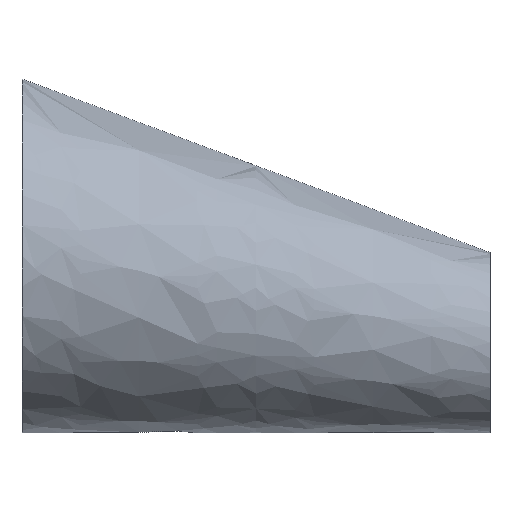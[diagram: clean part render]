
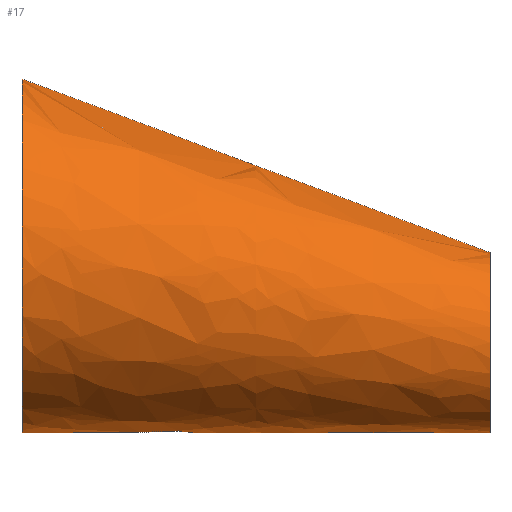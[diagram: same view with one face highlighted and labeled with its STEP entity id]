
A CAD part, top view. The second image highlights one B-rep face of the part: STEP entity #17.
In plain terms, the highlighted free-form (B-spline) face has degree [14, 1] with [28, 2] control points.
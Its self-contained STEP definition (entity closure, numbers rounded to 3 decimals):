
#17 = ADVANCED_FACE('',(#18),#31,.T.);
#18 = FACE_BOUND('',#19,.T.);
#19 = EDGE_LOOP('',(#20,#106,#128,#155));
#20 = ORIENTED_EDGE('',*,*,#21,.T.);
#21 = EDGE_CURVE('',#22,#22,#24,.T.);
#22 = VERTEX_POINT('',#23);
#23 = CARTESIAN_POINT('',(0.,52.,0.));
#24 = SURFACE_CURVE('',#25,(#30,#94),.PCURVE_S1.);
#25 = CIRCLE('',#26,52.);
#26 = AXIS2_PLACEMENT_3D('',#27,#28,#29);
#27 = CARTESIAN_POINT('',(0.,0.,0.));
#28 = DIRECTION('',(1.,0.,0.));
#29 = DIRECTION('',(0.,1.,0.));
#30 = PCURVE('',#31,#88);
#31 = B_SPLINE_SURFACE_WITH_KNOTS('',14,1,(
    (#32,#33)
    ,(#34,#35)
    ,(#36,#37)
    ,(#38,#39)
    ,(#40,#41)
    ,(#42,#43)
    ,(#44,#45)
    ,(#46,#47)
    ,(#48,#49)
    ,(#50,#51)
    ,(#52,#53)
    ,(#54,#55)
    ,(#56,#57)
    ,(#58,#59)
    ,(#60,#61)
    ,(#62,#63)
    ,(#64,#65)
    ,(#66,#67)
    ,(#68,#69)
    ,(#70,#71)
    ,(#72,#73)
    ,(#74,#75)
    ,(#76,#77)
    ,(#78,#79)
    ,(#80,#81)
    ,(#82,#83)
    ,(#84,#85)
    ,(#86,#87
    )),.UNSPECIFIED.,.T.,.F.,.F.,(15,13,15),(2,2),(0.,3.142,
    6.283),(0.,1.),.UNSPECIFIED.);
#32 = CARTESIAN_POINT('',(0.,52.,0.));
#33 = CARTESIAN_POINT('',(137.5,1.,0.));
#34 = CARTESIAN_POINT('',(0.,52.,11.669));
#35 = CARTESIAN_POINT('',(137.5,1.,5.947));
#36 = CARTESIAN_POINT('',(0.,49.18,23.338));
#37 = CARTESIAN_POINT('',(137.5,-0.437,
    11.893));
#38 = CARTESIAN_POINT('',(0.,43.54,34.268));
#39 = CARTESIAN_POINT('',(137.5,-3.311,
    17.464));
#40 = CARTESIAN_POINT('',(0.,35.292,43.722));
#41 = CARTESIAN_POINT('',(137.5,-7.515,22.281));
#42 = CARTESIAN_POINT('',(0.,24.855,51.028));
#43 = CARTESIAN_POINT('',(137.5,-12.833,26.004));
#44 = CARTESIAN_POINT('',(0.,12.841,55.645));
#45 = CARTESIAN_POINT('',(137.5,-18.956,
    28.358));
#46 = CARTESIAN_POINT('',(0.,0.,57.225));
#47 = CARTESIAN_POINT('',(137.5,-25.5,
    29.163));
#48 = CARTESIAN_POINT('',(0.,-12.841,55.645));
#49 = CARTESIAN_POINT('',(137.5,-32.044,28.358));
#50 = CARTESIAN_POINT('',(0.,-24.855,51.028));
#51 = CARTESIAN_POINT('',(137.5,-38.167,26.004));
#52 = CARTESIAN_POINT('',(0.,-35.292,43.722));
#53 = CARTESIAN_POINT('',(137.5,-43.485,22.281));
#54 = CARTESIAN_POINT('',(0.,-43.54,34.268));
#55 = CARTESIAN_POINT('',(137.5,-47.689,17.464));
#56 = CARTESIAN_POINT('',(0.,-49.18,23.338));
#57 = CARTESIAN_POINT('',(137.5,-50.563,11.893));
#58 = CARTESIAN_POINT('',(0.,-52.,11.669));
#59 = CARTESIAN_POINT('',(137.5,-52.,5.947));
#60 = CARTESIAN_POINT('',(0.,-52.,-11.669));
#61 = CARTESIAN_POINT('',(137.5,-52.,-5.947));
#62 = CARTESIAN_POINT('',(0.,-49.18,-23.338));
#63 = CARTESIAN_POINT('',(137.5,-50.563,-11.893));
#64 = CARTESIAN_POINT('',(0.,-43.54,-34.268));
#65 = CARTESIAN_POINT('',(137.5,-47.689,-17.464));
#66 = CARTESIAN_POINT('',(0.,-35.292,-43.722));
#67 = CARTESIAN_POINT('',(137.5,-43.485,-22.281));
#68 = CARTESIAN_POINT('',(0.,-24.855,-51.028));
#69 = CARTESIAN_POINT('',(137.5,-38.167,-26.004));
#70 = CARTESIAN_POINT('',(0.,-12.841,-55.645));
#71 = CARTESIAN_POINT('',(137.5,-32.044,-28.358));
#72 = CARTESIAN_POINT('',(0.,0.,-57.225));
#73 = CARTESIAN_POINT('',(137.5,-25.5,-29.163));
#74 = CARTESIAN_POINT('',(0.,12.841,-55.645));
#75 = CARTESIAN_POINT('',(137.5,-18.956,-28.358));
#76 = CARTESIAN_POINT('',(0.,24.855,-51.028));
#77 = CARTESIAN_POINT('',(137.5,-12.833,-26.004));
#78 = CARTESIAN_POINT('',(0.,35.292,-43.722));
#79 = CARTESIAN_POINT('',(137.5,-7.515,
    -22.281));
#80 = CARTESIAN_POINT('',(0.,43.54,-34.268));
#81 = CARTESIAN_POINT('',(137.5,-3.311,
    -17.464));
#82 = CARTESIAN_POINT('',(0.,49.18,-23.338));
#83 = CARTESIAN_POINT('',(137.5,-0.437,
    -11.893));
#84 = CARTESIAN_POINT('',(0.,52.,-11.669));
#85 = CARTESIAN_POINT('',(137.5,1.,-5.947
    ));
#86 = CARTESIAN_POINT('',(0.,52.,0.));
#87 = CARTESIAN_POINT('',(137.5,1.,0.));
#88 = DEFINITIONAL_REPRESENTATION('',(#89),#93);
#89 = LINE('',#90,#91);
#90 = CARTESIAN_POINT('',(0.,0.));
#91 = VECTOR('',#92,1.);
#92 = DIRECTION('',(1.,0.));
#93 = ( GEOMETRIC_REPRESENTATION_CONTEXT(2) 
PARAMETRIC_REPRESENTATION_CONTEXT() REPRESENTATION_CONTEXT('2D SPACE',''
  ) );
#94 = PCURVE('',#95,#100);
#95 = PLANE('',#96);
#96 = AXIS2_PLACEMENT_3D('',#97,#98,#99);
#97 = CARTESIAN_POINT('',(0.,0.,0.));
#98 = DIRECTION('',(1.,0.,0.));
#99 = DIRECTION('',(0.,1.,0.));
#100 = DEFINITIONAL_REPRESENTATION('',(#101),#105);
#101 = CIRCLE('',#102,52.);
#102 = AXIS2_PLACEMENT_2D('',#103,#104);
#103 = CARTESIAN_POINT('',(0.,0.));
#104 = DIRECTION('',(1.,0.));
#105 = ( GEOMETRIC_REPRESENTATION_CONTEXT(2) 
PARAMETRIC_REPRESENTATION_CONTEXT() REPRESENTATION_CONTEXT('2D SPACE',''
  ) );
#106 = ORIENTED_EDGE('',*,*,#107,.T.);
#107 = EDGE_CURVE('',#22,#108,#110,.T.);
#108 = VERTEX_POINT('',#109);
#109 = CARTESIAN_POINT('',(137.5,1.,0.));
#110 = SEAM_CURVE('',#111,(#114,#121),.PCURVE_S1.);
#111 = B_SPLINE_CURVE_WITH_KNOTS('',1,(#112,#113),.UNSPECIFIED.,.F.,.F.,
  (2,2),(0.,1.),.PIECEWISE_BEZIER_KNOTS.);
#112 = CARTESIAN_POINT('',(0.,52.,0.));
#113 = CARTESIAN_POINT('',(137.5,1.,0.));
#114 = PCURVE('',#31,#115);
#115 = DEFINITIONAL_REPRESENTATION('',(#116),#120);
#116 = LINE('',#117,#118);
#117 = CARTESIAN_POINT('',(6.283,0.));
#118 = VECTOR('',#119,1.);
#119 = DIRECTION('',(0.,1.));
#120 = ( GEOMETRIC_REPRESENTATION_CONTEXT(2) 
PARAMETRIC_REPRESENTATION_CONTEXT() REPRESENTATION_CONTEXT('2D SPACE',''
  ) );
#121 = PCURVE('',#31,#122);
#122 = DEFINITIONAL_REPRESENTATION('',(#123),#127);
#123 = LINE('',#124,#125);
#124 = CARTESIAN_POINT('',(0.,0.));
#125 = VECTOR('',#126,1.);
#126 = DIRECTION('',(0.,1.));
#127 = ( GEOMETRIC_REPRESENTATION_CONTEXT(2) 
PARAMETRIC_REPRESENTATION_CONTEXT() REPRESENTATION_CONTEXT('2D SPACE',''
  ) );
#128 = ORIENTED_EDGE('',*,*,#129,.F.);
#129 = EDGE_CURVE('',#108,#108,#130,.T.);
#130 = SURFACE_CURVE('',#131,(#136,#143),.PCURVE_S1.);
#131 = CIRCLE('',#132,26.5);
#132 = AXIS2_PLACEMENT_3D('',#133,#134,#135);
#133 = CARTESIAN_POINT('',(137.5,-25.5,0.));
#134 = DIRECTION('',(1.,0.,0.));
#135 = DIRECTION('',(0.,1.,0.));
#136 = PCURVE('',#31,#137);
#137 = DEFINITIONAL_REPRESENTATION('',(#138),#142);
#138 = LINE('',#139,#140);
#139 = CARTESIAN_POINT('',(0.,1.));
#140 = VECTOR('',#141,1.);
#141 = DIRECTION('',(1.,0.));
#142 = ( GEOMETRIC_REPRESENTATION_CONTEXT(2) 
PARAMETRIC_REPRESENTATION_CONTEXT() REPRESENTATION_CONTEXT('2D SPACE',''
  ) );
#143 = PCURVE('',#144,#149);
#144 = PLANE('',#145);
#145 = AXIS2_PLACEMENT_3D('',#146,#147,#148);
#146 = CARTESIAN_POINT('',(137.5,-25.5,0.));
#147 = DIRECTION('',(1.,0.,0.));
#148 = DIRECTION('',(0.,1.,0.));
#149 = DEFINITIONAL_REPRESENTATION('',(#150),#154);
#150 = CIRCLE('',#151,26.5);
#151 = AXIS2_PLACEMENT_2D('',#152,#153);
#152 = CARTESIAN_POINT('',(0.,0.));
#153 = DIRECTION('',(1.,0.));
#154 = ( GEOMETRIC_REPRESENTATION_CONTEXT(2) 
PARAMETRIC_REPRESENTATION_CONTEXT() REPRESENTATION_CONTEXT('2D SPACE',''
  ) );
#155 = ORIENTED_EDGE('',*,*,#107,.F.);
